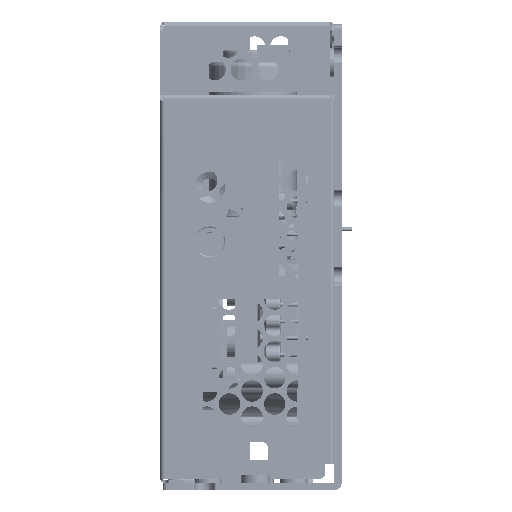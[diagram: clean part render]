
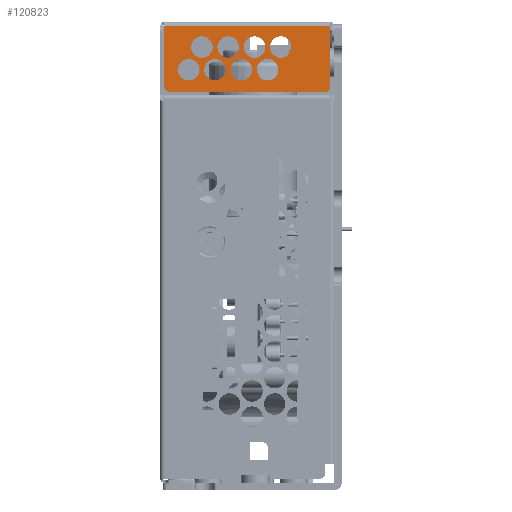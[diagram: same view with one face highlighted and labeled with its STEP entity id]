
A CAD part, left-side view. The second image highlights one B-rep face of the part: STEP entity #120823.
In plain terms, the highlighted planar face has unit normal (-1, 0, 0) as drawn and (0, 1, 0) by its records, which use the part's own axes.
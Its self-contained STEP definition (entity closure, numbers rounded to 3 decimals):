
#102364=DIRECTION('',(0.,0.,-1.));
#102365=VECTOR('',#102364,34.7);
#102366=CARTESIAN_POINT('',(95.,72.,35.6));
#102367=LINE('',#102366,#102365);
#102392=CARTESIAN_POINT('',(82.3,72.,1.9));
#102393=DIRECTION('',(0.,1.,0.));
#102394=DIRECTION('',(0.,0.,-1.));
#102395=AXIS2_PLACEMENT_3D('',#102392,#102393,#102394);
#102397=DIRECTION('',(-1.,0.,0.));
#102398=VECTOR('',#102397,12.4);
#102399=CARTESIAN_POINT('',(94.7,72.,0.9));
#102400=LINE('',#102399,#102398);
#102401=DIRECTION('',(-1.,0.,0.));
#102402=VECTOR('',#102401,0.3);
#102403=CARTESIAN_POINT('',(95.,72.,0.9));
#102404=LINE('',#102403,#102402);
#102405=DIRECTION('',(-1.,0.,0.));
#102406=VECTOR('',#102405,0.129);
#102407=CARTESIAN_POINT('',(95.,72.,35.6));
#102408=LINE('',#102407,#102406);
#102409=DIRECTION('',(1.,0.,0.));
#102410=VECTOR('',#102409,12.571);
#102411=CARTESIAN_POINT('',(82.3,72.,35.6));
#102412=LINE('',#102411,#102410);
#102413=CARTESIAN_POINT('',(82.3,72.,34.6));
#102414=DIRECTION('',(0.,1.,0.));
#102415=DIRECTION('',(-1.,0.,0.));
#102416=AXIS2_PLACEMENT_3D('',#102413,#102414,#102415);
#102418=DIRECTION('',(0.,0.,1.));
#102419=VECTOR('',#102418,32.7);
#102420=CARTESIAN_POINT('',(81.3,72.,1.9));
#102421=LINE('',#102420,#102419);
#102422=CARTESIAN_POINT('',(85.9,72.,6.));
#102423=DIRECTION('',(0.,1.,0.));
#102424=DIRECTION('',(-1.,0.,0.));
#102425=AXIS2_PLACEMENT_3D('',#102422,#102423,#102424);
#102427=CARTESIAN_POINT('',(85.9,72.,6.));
#102428=DIRECTION('',(0.,1.,0.));
#102429=DIRECTION('',(1.,0.,0.));
#102430=AXIS2_PLACEMENT_3D('',#102427,#102428,#102429);
#102432=CARTESIAN_POINT('',(85.9,72.,11.5));
#102433=DIRECTION('',(0.,1.,0.));
#102434=DIRECTION('',(-1.,0.,0.));
#102435=AXIS2_PLACEMENT_3D('',#102432,#102433,#102434);
#102437=CARTESIAN_POINT('',(85.9,72.,11.5));
#102438=DIRECTION('',(0.,1.,0.));
#102439=DIRECTION('',(1.,0.,0.));
#102440=AXIS2_PLACEMENT_3D('',#102437,#102438,#102439);
#102442=CARTESIAN_POINT('',(85.9,72.,17.));
#102443=DIRECTION('',(0.,1.,0.));
#102444=DIRECTION('',(-1.,0.,0.));
#102445=AXIS2_PLACEMENT_3D('',#102442,#102443,#102444);
#102447=CARTESIAN_POINT('',(85.9,72.,17.));
#102448=DIRECTION('',(0.,1.,0.));
#102449=DIRECTION('',(1.,0.,0.));
#102450=AXIS2_PLACEMENT_3D('',#102447,#102448,#102449);
#102452=CARTESIAN_POINT('',(85.9,72.,22.5));
#102453=DIRECTION('',(0.,1.,0.));
#102454=DIRECTION('',(-1.,0.,0.));
#102455=AXIS2_PLACEMENT_3D('',#102452,#102453,#102454);
#102457=CARTESIAN_POINT('',(85.9,72.,22.5));
#102458=DIRECTION('',(0.,1.,0.));
#102459=DIRECTION('',(1.,0.,0.));
#102460=AXIS2_PLACEMENT_3D('',#102457,#102458,#102459);
#102462=CARTESIAN_POINT('',(90.65,72.,8.751));
#102463=DIRECTION('',(0.,1.,0.));
#102464=DIRECTION('',(-1.,0.,0.));
#102465=AXIS2_PLACEMENT_3D('',#102462,#102463,#102464);
#102467=CARTESIAN_POINT('',(90.65,72.,8.751));
#102468=DIRECTION('',(0.,1.,0.));
#102469=DIRECTION('',(1.,0.,0.));
#102470=AXIS2_PLACEMENT_3D('',#102467,#102468,#102469);
#102472=CARTESIAN_POINT('',(90.65,72.,14.251));
#102473=DIRECTION('',(0.,1.,0.));
#102474=DIRECTION('',(-1.,0.,0.));
#102475=AXIS2_PLACEMENT_3D('',#102472,#102473,#102474);
#102477=CARTESIAN_POINT('',(90.65,72.,14.251));
#102478=DIRECTION('',(0.,1.,0.));
#102479=DIRECTION('',(1.,0.,0.));
#102480=AXIS2_PLACEMENT_3D('',#102477,#102478,#102479);
#102482=CARTESIAN_POINT('',(90.65,72.,19.751));
#102483=DIRECTION('',(0.,1.,0.));
#102484=DIRECTION('',(-1.,0.,0.));
#102485=AXIS2_PLACEMENT_3D('',#102482,#102483,#102484);
#102487=CARTESIAN_POINT('',(90.65,72.,19.751));
#102488=DIRECTION('',(0.,1.,0.));
#102489=DIRECTION('',(1.,0.,0.));
#102490=AXIS2_PLACEMENT_3D('',#102487,#102488,#102489);
#102492=CARTESIAN_POINT('',(90.65,72.,25.251));
#102493=DIRECTION('',(0.,1.,0.));
#102494=DIRECTION('',(-1.,0.,0.));
#102495=AXIS2_PLACEMENT_3D('',#102492,#102493,#102494);
#102497=CARTESIAN_POINT('',(90.65,72.,25.251));
#102498=DIRECTION('',(0.,1.,0.));
#102499=DIRECTION('',(1.,0.,0.));
#102500=AXIS2_PLACEMENT_3D('',#102497,#102498,#102499);
#105804=CARTESIAN_POINT('',(94.871,72.,35.6));
#105806=VERTEX_POINT('',#105804);
#105838=CARTESIAN_POINT('',(95.,72.,35.6));
#105839=CARTESIAN_POINT('',(95.,72.,0.9));
#105840=VERTEX_POINT('',#105838);
#105841=VERTEX_POINT('',#105839);
#105846=CARTESIAN_POINT('',(94.7,72.,0.9));
#105847=VERTEX_POINT('',#105846);
#105930=CARTESIAN_POINT('',(82.3,72.,0.9));
#105931=VERTEX_POINT('',#105930);
#105932=CARTESIAN_POINT('',(81.3,72.,1.9));
#105933=VERTEX_POINT('',#105932);
#105938=CARTESIAN_POINT('',(81.3,72.,34.6));
#105939=VERTEX_POINT('',#105938);
#105940=CARTESIAN_POINT('',(82.3,72.,35.6));
#105941=VERTEX_POINT('',#105940);
#106078=CARTESIAN_POINT('',(83.65,72.,6.));
#106079=CARTESIAN_POINT('',(88.15,72.,6.));
#106080=VERTEX_POINT('',#106078);
#106081=VERTEX_POINT('',#106079);
#106086=CARTESIAN_POINT('',(83.65,72.,11.5));
#106087=CARTESIAN_POINT('',(88.15,72.,11.5));
#106088=VERTEX_POINT('',#106086);
#106089=VERTEX_POINT('',#106087);
#106094=CARTESIAN_POINT('',(83.65,72.,17.));
#106095=CARTESIAN_POINT('',(88.15,72.,17.));
#106096=VERTEX_POINT('',#106094);
#106097=VERTEX_POINT('',#106095);
#106102=CARTESIAN_POINT('',(83.65,72.,22.5));
#106103=CARTESIAN_POINT('',(88.15,72.,22.5));
#106104=VERTEX_POINT('',#106102);
#106105=VERTEX_POINT('',#106103);
#106110=CARTESIAN_POINT('',(88.4,72.,8.751));
#106111=CARTESIAN_POINT('',(92.9,72.,8.751));
#106112=VERTEX_POINT('',#106110);
#106113=VERTEX_POINT('',#106111);
#106118=CARTESIAN_POINT('',(88.4,72.,14.251));
#106119=CARTESIAN_POINT('',(92.9,72.,14.251));
#106120=VERTEX_POINT('',#106118);
#106121=VERTEX_POINT('',#106119);
#106126=CARTESIAN_POINT('',(88.4,72.,19.751));
#106127=CARTESIAN_POINT('',(92.9,72.,19.751));
#106128=VERTEX_POINT('',#106126);
#106129=VERTEX_POINT('',#106127);
#106134=CARTESIAN_POINT('',(88.4,72.,25.251));
#106135=CARTESIAN_POINT('',(92.9,72.,25.251));
#106136=VERTEX_POINT('',#106134);
#106137=VERTEX_POINT('',#106135);
#120753=CARTESIAN_POINT('',(95.3,72.,27.355));
#120754=DIRECTION('',(0.,1.,0.));
#120755=DIRECTION('',(0.,0.,1.));
#120756=AXIS2_PLACEMENT_3D('',#120753,#120754,#120755);
#120757=PLANE('',#120756);
#120759=ORIENTED_EDGE('',*,*,#120758,.F.);
#120761=ORIENTED_EDGE('',*,*,#120760,.F.);
#120763=ORIENTED_EDGE('',*,*,#120762,.F.);
#120764=ORIENTED_EDGE('',*,*,#120740,.F.);
#120766=ORIENTED_EDGE('',*,*,#120765,.T.);
#120768=ORIENTED_EDGE('',*,*,#120767,.F.);
#120770=ORIENTED_EDGE('',*,*,#120769,.F.);
#120772=ORIENTED_EDGE('',*,*,#120771,.F.);
#120773=EDGE_LOOP('',(#120759,#120761,#120763,#120764,#120766,#120768,#120770,
#120772));
#120774=FACE_OUTER_BOUND('',#120773,.F.);
#120776=ORIENTED_EDGE('',*,*,#120775,.T.);
#120778=ORIENTED_EDGE('',*,*,#120777,.T.);
#120779=EDGE_LOOP('',(#120776,#120778));
#120780=FACE_BOUND('',#120779,.F.);
#120782=ORIENTED_EDGE('',*,*,#120781,.T.);
#120784=ORIENTED_EDGE('',*,*,#120783,.T.);
#120785=EDGE_LOOP('',(#120782,#120784));
#120786=FACE_BOUND('',#120785,.F.);
#120788=ORIENTED_EDGE('',*,*,#120787,.T.);
#120790=ORIENTED_EDGE('',*,*,#120789,.T.);
#120791=EDGE_LOOP('',(#120788,#120790));
#120792=FACE_BOUND('',#120791,.F.);
#120794=ORIENTED_EDGE('',*,*,#120793,.T.);
#120796=ORIENTED_EDGE('',*,*,#120795,.T.);
#120797=EDGE_LOOP('',(#120794,#120796));
#120798=FACE_BOUND('',#120797,.F.);
#120800=ORIENTED_EDGE('',*,*,#120799,.T.);
#120802=ORIENTED_EDGE('',*,*,#120801,.T.);
#120803=EDGE_LOOP('',(#120800,#120802));
#120804=FACE_BOUND('',#120803,.F.);
#120806=ORIENTED_EDGE('',*,*,#120805,.T.);
#120808=ORIENTED_EDGE('',*,*,#120807,.T.);
#120809=EDGE_LOOP('',(#120806,#120808));
#120810=FACE_BOUND('',#120809,.F.);
#120812=ORIENTED_EDGE('',*,*,#120811,.T.);
#120814=ORIENTED_EDGE('',*,*,#120813,.T.);
#120815=EDGE_LOOP('',(#120812,#120814));
#120816=FACE_BOUND('',#120815,.F.);
#120818=ORIENTED_EDGE('',*,*,#120817,.T.);
#120820=ORIENTED_EDGE('',*,*,#120819,.T.);
#120821=EDGE_LOOP('',(#120818,#120820));
#120822=FACE_BOUND('',#120821,.F.);
#102396=CIRCLE('',#102395,1.);
#102417=CIRCLE('',#102416,1.);
#102426=CIRCLE('',#102425,2.25);
#102431=CIRCLE('',#102430,2.25);
#102436=CIRCLE('',#102435,2.25);
#102441=CIRCLE('',#102440,2.25);
#102446=CIRCLE('',#102445,2.25);
#102451=CIRCLE('',#102450,2.25);
#102456=CIRCLE('',#102455,2.25);
#102461=CIRCLE('',#102460,2.25);
#102466=CIRCLE('',#102465,2.25);
#102471=CIRCLE('',#102470,2.25);
#102476=CIRCLE('',#102475,2.25);
#102481=CIRCLE('',#102480,2.25);
#102486=CIRCLE('',#102485,2.25);
#102491=CIRCLE('',#102490,2.25);
#102496=CIRCLE('',#102495,2.25);
#102501=CIRCLE('',#102500,2.25);
#120740=EDGE_CURVE('',#105840,#105841,#102367,.T.);
#120758=EDGE_CURVE('',#105931,#105933,#102396,.T.);
#120760=EDGE_CURVE('',#105847,#105931,#102400,.T.);
#120762=EDGE_CURVE('',#105841,#105847,#102404,.T.);
#120765=EDGE_CURVE('',#105840,#105806,#102408,.T.);
#120767=EDGE_CURVE('',#105941,#105806,#102412,.T.);
#120769=EDGE_CURVE('',#105939,#105941,#102417,.T.);
#120771=EDGE_CURVE('',#105933,#105939,#102421,.T.);
#120775=EDGE_CURVE('',#106080,#106081,#102426,.T.);
#120777=EDGE_CURVE('',#106081,#106080,#102431,.T.);
#120781=EDGE_CURVE('',#106088,#106089,#102436,.T.);
#120783=EDGE_CURVE('',#106089,#106088,#102441,.T.);
#120787=EDGE_CURVE('',#106096,#106097,#102446,.T.);
#120789=EDGE_CURVE('',#106097,#106096,#102451,.T.);
#120793=EDGE_CURVE('',#106104,#106105,#102456,.T.);
#120795=EDGE_CURVE('',#106105,#106104,#102461,.T.);
#120799=EDGE_CURVE('',#106112,#106113,#102466,.T.);
#120801=EDGE_CURVE('',#106113,#106112,#102471,.T.);
#120805=EDGE_CURVE('',#106120,#106121,#102476,.T.);
#120807=EDGE_CURVE('',#106121,#106120,#102481,.T.);
#120811=EDGE_CURVE('',#106128,#106129,#102486,.T.);
#120813=EDGE_CURVE('',#106129,#106128,#102491,.T.);
#120817=EDGE_CURVE('',#106136,#106137,#102496,.T.);
#120819=EDGE_CURVE('',#106137,#106136,#102501,.T.);
#120823=ADVANCED_FACE('',(#120774,#120780,#120786,#120792,#120798,#120804,
#120810,#120816,#120822),#120757,.T.);
